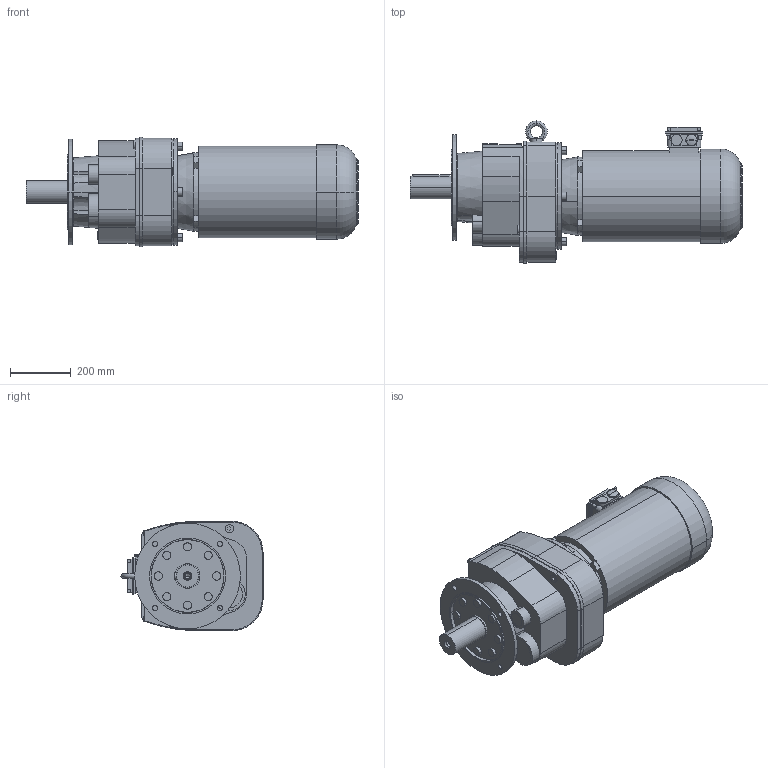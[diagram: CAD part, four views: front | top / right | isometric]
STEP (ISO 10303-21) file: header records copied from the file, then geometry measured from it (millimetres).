
FILE_DESCRIPTION(('STEP AP214'),'1');
FILE_NAME('STEP-File.stp','2018-01-01T00:00:00',(' '),('KEB'),' ','KEB-DRIVE',' ');
FILE_SCHEMA(('AUTOMOTIVE_DESIGN { 1 0 10303 214 1 1 1 1 }'));
Length unit declared in the file: millimetre
Products named in the file (10): g7b; w7_we_75x140; c7_350; cs7; dm160_kkn; kk10; PLUG_M32; SCREW-PLUG_M32; ndm160; G72C DM160MB4§CAD13
Assembly tree (9 placements, depth 2):
  G72C DM160MB4§CAD13
    g7b
    w7_we_75x140
    c7_350
    cs7
    dm160_kkn
    kk10
    PLUG_M32
    SCREW-PLUG_M32
    ndm160
Bounding box: 1092.49 x 467.5 x 360 mm (x, y, z)
Volume: 76310010.9 mm3; surface area: 2056046.6 mm2
Topology: 9 solids, 9 shells, 370 faces, 885 edges, 582 vertices
Faces by surface type: plane 197, cylinder 125, cone 32, torus 16
Entity records: 12594 total; most frequent: CARTESIAN_POINT 4040, ORIENTED_EDGE 1766, DIRECTION 1605, EDGE_CURVE 883, VERTEX_POINT 582, AXIS2_PLACEMENT_3D 567, VECTOR 471, LINE 471
